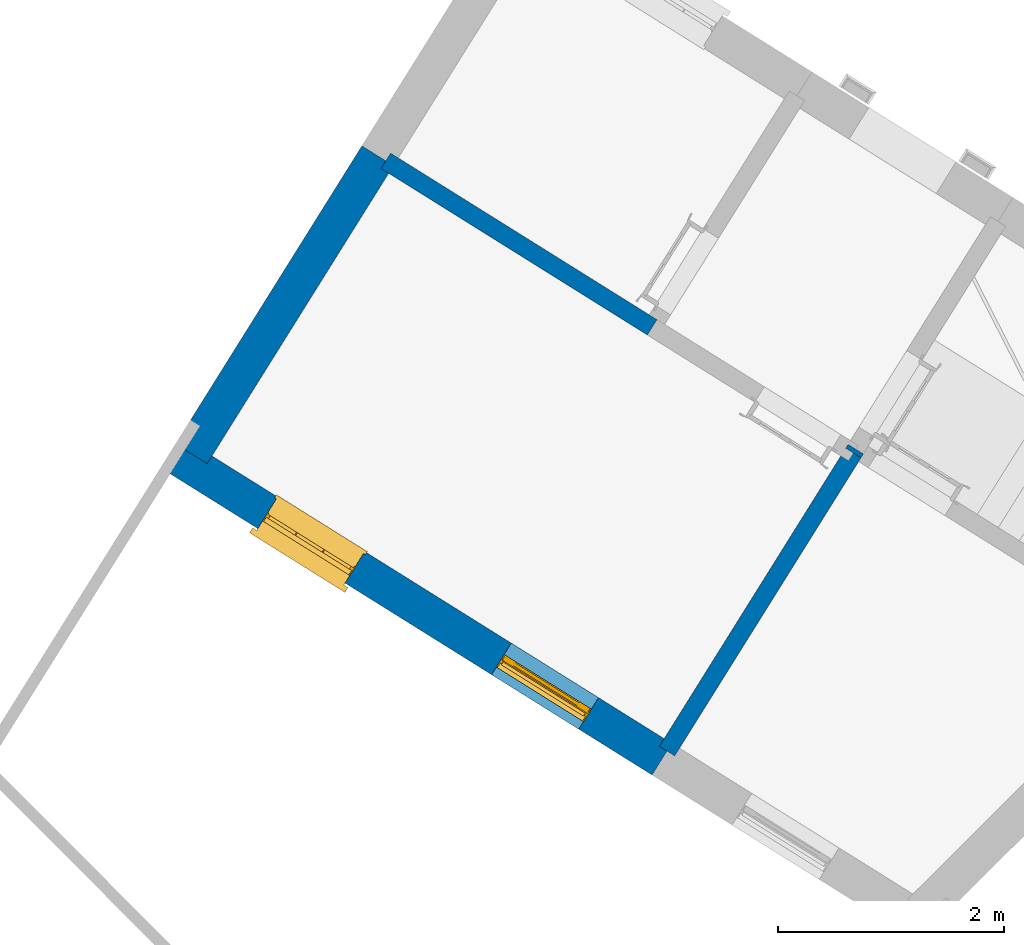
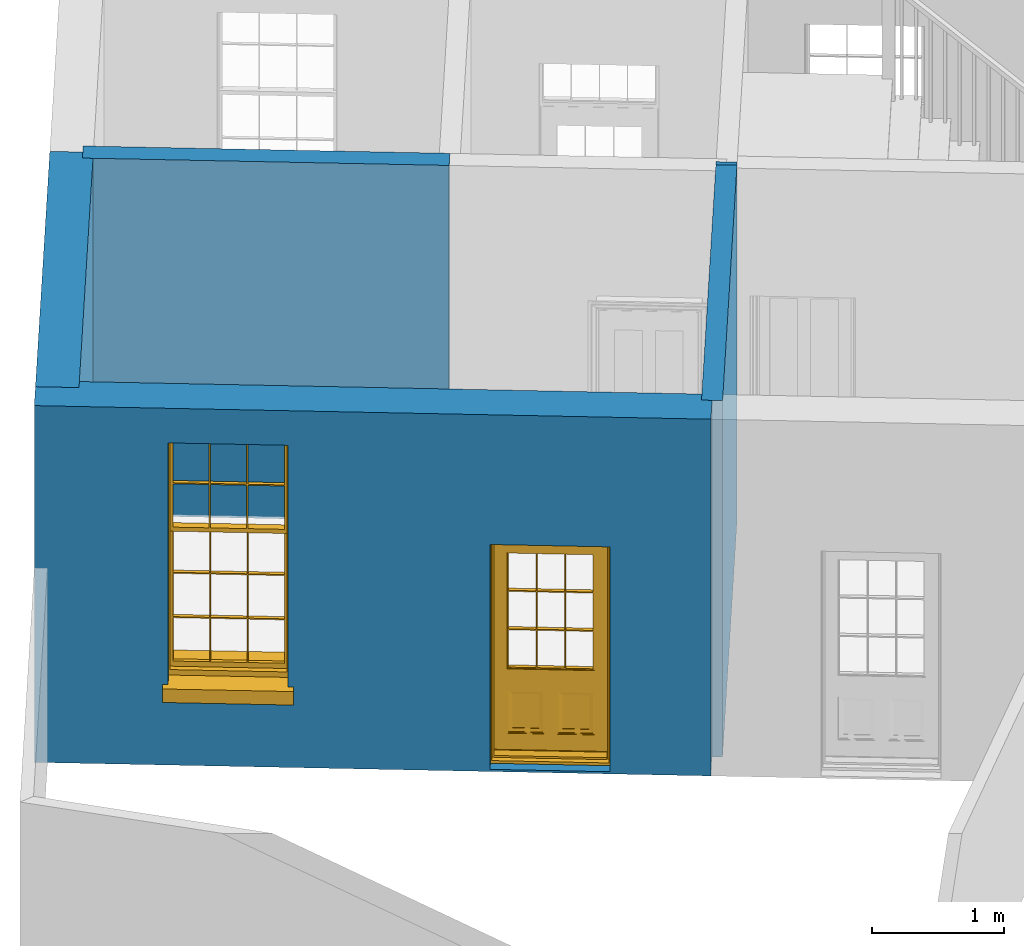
# One storey, part 2 of 5: 5 walls, 1 door, 1 window, 2 openings.
"""IFC4 building model written with IfcOpenShell, lengths in metres."""

from ifc_helpers import new_model, si_unit, frame, origin, origin_with_axes, place, context, subcontext, project, spatial, polyline, outline, extrude, faceted_brep, source, transform, mapped, material, layer, layer_set, layer_usage, type_object, type_shapes, element, fill, save


model = new_model("IFC4")

# Units and contexts
model_context = context("Model", 3, world=origin_with_axes())
body_context = subcontext(model_context, "Body", "Model", "MODEL_VIEW")
ifc_project = project(units=[si_unit("PLANEANGLEUNIT", "RADIAN"), si_unit("MASSUNIT", "GRAM", prefix="KILO"), si_unit("FORCEUNIT", "NEWTON", prefix="KILO"), si_unit("LENGTHUNIT", "METRE"), si_unit("AREAUNIT", "SQUARE_METRE"), si_unit("VOLUMEUNIT", "CUBIC_METRE")], contexts=[model_context, model_context])

# Sites, building, storey
site_1_placement = place(None, origin_with_axes())
site_1 = spatial("IfcSite", under=ifc_project, at=site_1_placement, Name="Tamar")
site_2_placement = place(site_1_placement, origin_with_axes())
site_2 = spatial("IfcSite", under=site_1, at=site_2_placement, Name="Site plot-4", CompositionType="ELEMENT")
building_placement = place(None, origin_with_axes())
building = spatial("IfcBuilding", under=site_2, at=building_placement, Name="Building plot-4", CompositionType="ELEMENT")
storey_placement = place(None, frame((0.0, 0.0, 24.5), z_axis=(0.0, 0.0, 1.0), x_axis=(1.0, 0.0, 0.0)))
storey = spatial("IfcBuildingStorey", under=building, at=storey_placement, Name="plot-4 0", CompositionType="ELEMENT", Elevation=24.5)

# Wall, openings, window, door
ifc_material_1 = material(Name="Masonry")
ifc_layer_1 = layer(ifc_material_1, 0.33, ventilated=False)
ifc_layer_set_1 = layer_set([ifc_layer_1], Name="exterior_0.08_0.25")
ifc_layer_usage_1 = layer_usage(ifc_layer_set_1, "AXIS2", "POSITIVE", -0.25)
wall_type_1 = type_object("IfcWallType", Name="exterior_0.08_0.25", PredefinedType="SOLIDWALL", material=ifc_layer_set_1)
wall_1_placement = place(storey_placement, frame((217.830342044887, 281.480394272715, 0.0), z_axis=(0.0, 0.0, 1.0), x_axis=(0.847981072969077, -0.530026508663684, 0.0)))
wall_1 = element("IfcWall", 1, at=wall_1_placement, inside=storey, type_object=wall_type_1, material=ifc_layer_usage_1, Name="exterior", context=body_context, shape_type="SweptSolid", body=[
    extrude(outline(polyline([(-0.25000000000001, 0.0799999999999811), (-0.250000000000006, -0.250000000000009), (4.88049319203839, -0.250000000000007), (4.88049319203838, 0.0799999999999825), (-0.25000000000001, 0.0799999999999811)])), origin_with_axes(), (0.0, 0.0, 1.0), 3.3),
])
opening_1_placement = place(wall_1_placement, frame((0.765123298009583, 0.0, 0.75)))
opening_1 = element("IfcOpeningElement", 2, at=opening_1_placement, cuts=wall_1, Name="My Opening", ObjectType="Opening", context=body_context, shape_type="SweptSolid", body=[
    extrude(outline(polyline([(0.0, -0.269999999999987), (0.910000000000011, -0.269999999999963), (0.910000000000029, 1.10000000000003), (1.67643676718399e-14, 1.10000000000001), (0.0, -0.269999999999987)])), origin_with_axes(), (0.0, 0.0, 1.0), 2.23),
])
opening_2_placement = place(wall_1_placement, frame((3.20536989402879, 0.0, 0.0199999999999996)))
opening_2 = element("IfcOpeningElement", 3, at=opening_2_placement, cuts=wall_1, Name="My Opening", ObjectType="Opening", context=body_context, shape_type="SweptSolid", body=[
    extrude(outline(polyline([(0.0, -0.270000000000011), (0.910000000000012, -0.269999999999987), (0.910000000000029, 1.10000000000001), (1.73194791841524e-14, 1.09999999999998), (0.0, -0.270000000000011)])), origin_with_axes(), (0.0, 0.0, 1.0), 2.08),
])
window_type = type_object("IfcWindowType", Name="sash_big_taller", PartitioningType="DOUBLE_PANEL_HORIZONTAL", PredefinedType="NOTDEFINED")
shared_shape_1 = source(origin(), body_context, "Body", "Brep", [
    faceted_brep([(0.033125, 0.145, 1.385209), (0.01, 0.145, 1.385209), (0.033125, 0.145, 1.786042), (0.876875, 0.145, 1.385209), (0.876875, 0.145, 1.786042), (0.9, 0.145, 1.385209), (0.876875, 0.145, 1.796042), (0.876875, 0.145, 2.196875), (0.9, 0.145, 2.22), (0.033125, 0.145, 2.196875), (0.033125, 0.145, 1.796042), (0.01, 0.145, 2.22), (0.876875, 0.115, 1.786042), (0.876875, 0.115, 1.385209), (0.9, 0.115, 1.347084), (0.033125, 0.115, 2.196875), (0.01, 0.115, 2.22), (0.033125, 0.115, 1.796042), (0.01, 0.115, 1.347084), (0.033125, 0.115, 1.385209), (0.033125, 0.115, 1.786042), (0.876875, 0.115, 2.196875), (0.876875, 0.115, 1.796042), (0.9, 0.115, 2.22), (0.033125, 0.145, 1.347084), (0.01, 0.145, 1.347084), (0.033125, 0.145, 0.94625), (0.876875, 0.145, 1.347084), (0.876875, 0.145, 0.94625), (0.9, 0.145, 1.347084), (0.876875, 0.145, 0.52625), (0.876875, 0.145, 0.125417), (0.9, 0.145, 0.077167), (0.033125, 0.145, 0.125417), (0.033125, 0.145, 0.52625), (0.01, 0.145, 0.077167), (-0.0425, 0.0, 0.01), (-0.0425, -0.05, 0.001667), (0.0, 0.0, 0.01), (0.9525, 0.0, 0.01), (0.91, 0.0, 0.01), (0.9525, -0.05, 0.001667), (-0.02, 0.33, 0.077167), (0.0, 0.33, 0.077167), (-0.02, 0.36, 0.077167), (0.0, 0.19, 0.077167), (0.01, 0.19, 0.077167), (0.91, 0.19, 0.077167), (0.91, 0.33, 0.077167), (0.9, 0.19, 0.077167), (0.93, 0.33, 0.077167), (0.93, 0.36, 0.077167), (0.01, 0.175, 1.385209), (0.9, 0.175, 1.385209), (0.876875, 0.175, 0.125417), (0.876875, 0.175, 0.52625), (0.9, 0.175, 0.077167), (0.876875, 0.175, 0.94625), (0.876875, 0.175, 1.347084), (0.033125, 0.175, 0.125417), (0.01, 0.175, 0.077167), (0.033125, 0.175, 0.52625), (0.033125, 0.175, 1.347084), (0.033125, 0.175, 0.94625), (-0.02, 0.33, 0.052167), (-0.02, 0.36, 0.052167), (0.93, 0.36, 0.052167), (0.93, 0.33, 0.052167), (0.91, 0.33, 0.052167), (0.0, 0.33, 0.052167), (0.91, 0.1, 0.026667), (0.0, 0.1, 0.026667), (-0.0425, -0.05, -0.123333), (0.9525, -0.05, -0.123333), (-0.0425, 0.0, -0.123333), (0.9525, 0.0, -0.123333), (0.01, 0.19, 2.22), (0.9, 0.19, 2.22), (0.0, 0.19, 2.23), (0.91, 0.19, 2.23), (0.01, 0.1, 0.077167), (0.9, 0.1, 0.077167), (0.592292, 0.145, 0.125417), (0.592292, 0.175, 0.125417), (0.317708, 0.175, 0.125417), (0.317708, 0.145, 0.125417), (0.592292, 0.145, 0.53625), (0.317708, 0.145, 0.53625), (0.317708, 0.145, 0.52625), (0.592292, 0.145, 0.52625), (0.592292, 0.175, 0.53625), (0.317708, 0.175, 0.53625), (0.592292, 0.115, 1.796042), (0.592292, 0.145, 1.796042), (0.317708, 0.145, 1.796042), (0.317708, 0.115, 1.796042), (0.317708, 0.115, 1.786042), (0.592292, 0.115, 1.786042), (0.317708, 0.145, 1.786042), (0.592292, 0.145, 1.786042), (0.602292, 0.115, 1.786042), (0.592292, 0.115, 1.385209), (0.602292, 0.115, 1.385209), (0.602292, 0.145, 1.385209), (0.592292, 0.145, 1.385209), (0.602292, 0.145, 1.786042), (0.876875, 0.145, 0.53625), (0.876875, 0.175, 0.53625), (0.602292, 0.175, 0.53625), (0.602292, 0.145, 0.53625), (0.317708, 0.175, 0.52625), (0.307708, 0.175, 0.125417), (0.307708, 0.175, 0.52625), (0.602292, 0.175, 0.52625), (0.602292, 0.175, 0.125417), (0.592292, 0.175, 0.52625), (0.307708, 0.175, 0.53625), (0.033125, 0.175, 0.53625), (0.317708, 0.175, 1.347084), (0.317708, 0.175, 0.94625), (0.307708, 0.175, 0.94625), (0.307708, 0.175, 1.347084), (0.602292, 0.175, 1.347084), (0.602292, 0.175, 0.94625), (0.592292, 0.175, 0.94625), (0.592292, 0.175, 1.347084), (0.307708, 0.145, 0.52625), (0.307708, 0.145, 0.125417), (0.307708, 0.145, 0.53625), (0.033125, 0.145, 0.53625), (0.307708, 0.145, 1.347084), (0.307708, 0.145, 0.94625), (0.592292, 0.145, 1.347084), (0.592292, 0.145, 0.94625), (0.317708, 0.145, 0.94625), (0.317708, 0.145, 1.347084), (0.602292, 0.145, 0.94625), (0.602292, 0.145, 1.347084), (0.602292, 0.145, 0.52625), (0.602292, 0.145, 0.125417), (0.307708, 0.115, 1.796042), (0.307708, 0.115, 1.786042), (0.307708, 0.115, 1.385209), (0.317708, 0.115, 1.385209), (0.317708, 0.115, 2.196875), (0.307708, 0.115, 2.196875), (0.602292, 0.115, 2.196875), (0.592292, 0.115, 2.196875), (0.602292, 0.115, 1.796042), (0.602292, 0.145, 1.796042), (0.307708, 0.145, 1.796042), (0.307708, 0.145, 2.196875), (0.317708, 0.145, 2.196875), (0.592292, 0.145, 2.196875), (0.602292, 0.145, 2.196875), (0.307708, 0.145, 1.786042), (0.317708, 0.145, 1.385209), (0.307708, 0.145, 1.385209), (0.876875, 0.175, 0.93625), (0.033125, 0.175, 0.93625), (0.033125, 0.145, 0.93625), (0.876875, 0.145, 0.93625), (0.91, 0.1, 2.23), (0.9, 0.1, 2.22), (0.01, 0.1, 2.22), (0.0, 0.1, 2.23), (0.91, 0.0, 0.0), (0.0, 0.0, 0.0), (0.91, 0.33, 0.0), (0.0, 0.33, 0.0), (0.317708, 0.145, 0.93625), (0.592292, 0.145, 0.93625), (0.317708, 0.175, 0.93625), (0.307708, 0.175, 0.93625), (0.602292, 0.175, 0.93625), (0.592292, 0.175, 0.93625), (0.307708, 0.145, 0.93625), (0.602292, 0.145, 0.93625)], [[[0, 1, 2]], [[3, 4, 5]], [[6, 7, 8]], [[9, 10, 11]], [[12, 13, 14]], [[15, 16, 17]], [[18, 19, 20]], [[21, 22, 23]], [[24, 25, 26]], [[27, 28, 29]], [[30, 31, 32]], [[33, 34, 35]], [[14, 27, 29]], [[25, 24, 18]], [[36, 37, 38]], [[39, 40, 41]], [[42, 43, 44]], [[45, 46, 43]], [[47, 48, 49]], [[50, 51, 48]], [[1, 0, 52]], [[5, 53, 3]], [[54, 55, 56]], [[57, 58, 53]], [[59, 60, 61]], [[62, 63, 52]], [[48, 43, 46, 49]], [[51, 44, 43, 48]], [[64, 42, 44, 65]], [[65, 44, 51, 66]], [[66, 51, 50, 67]], [[65, 66, 68, 69]], [[60, 56, 49, 46]], [[70, 71, 38, 40]], [[37, 41, 40, 38]], [[37, 72, 73, 41]], [[74, 75, 73, 72]], [[8, 11, 76, 77]], [[76, 78, 79, 77]], [[32, 35, 80, 81]], [[81, 80, 71, 70]], [[82, 83, 84, 85]], [[86, 87, 88, 89]], [[86, 90, 91, 87]], [[92, 93, 94, 95]], [[92, 95, 96, 97]], [[96, 98, 99, 97]], [[100, 97, 101, 102]], [[103, 104, 99, 105]], [[97, 99, 104, 101]], [[102, 103, 105, 100]], [[106, 107, 108, 109]], [[110, 84, 111, 112]], [[113, 114, 83, 115]], [[116, 112, 61, 117]], [[90, 115, 110, 91]], [[118, 119, 120, 121]], [[122, 123, 124, 125]], [[113, 108, 107, 55]], [[126, 112, 111, 127]], [[34, 61, 112, 126]], [[89, 115, 83, 82]], [[88, 110, 115, 89]], [[85, 84, 110, 88]], [[128, 116, 117, 129]], [[130, 121, 120, 131]], [[132, 125, 124, 133]], [[134, 119, 118, 135]], [[136, 123, 122, 137]], [[138, 113, 55, 30]], [[139, 114, 113, 138]], [[138, 30, 106, 109]], [[88, 126, 127, 85]], [[138, 89, 82, 139]], [[137, 132, 133, 136]], [[128, 129, 34, 126]], [[135, 130, 131, 134]], [[140, 17, 20, 141]], [[96, 141, 142, 143]], [[144, 145, 140, 95]], [[146, 147, 92, 148]], [[100, 12, 22, 148]], [[149, 6, 4, 105]], [[94, 150, 151, 152]], [[149, 93, 153, 154]], [[99, 98, 94, 93]], [[155, 2, 10, 150]], [[156, 157, 155, 98]], [[141, 155, 157, 142]], [[20, 2, 155, 141]], [[143, 156, 98, 96]], [[140, 150, 10, 17]], [[145, 151, 150, 140]], [[147, 153, 93, 92]], [[95, 94, 152, 144]], [[22, 6, 149, 148]], [[148, 149, 154, 146]], [[100, 105, 4, 12]], [[109, 86, 89, 138]], [[108, 113, 115, 90]], [[91, 110, 112, 116]], [[87, 128, 126, 88]], [[97, 100, 148, 92]], [[141, 96, 95, 140]], [[98, 155, 150, 94]], [[105, 99, 93, 149]], [[143, 101, 104, 156]], [[135, 118, 125, 132]], [[144, 152, 153, 147]], [[127, 111, 59, 33]], [[15, 9, 151, 145]], [[146, 154, 7, 21]], [[31, 54, 114, 139]], [[36, 74, 72, 37]], [[39, 41, 73, 75]], [[18, 14, 101, 143]], [[23, 16, 144, 147]], [[83, 56, 60, 84]], [[52, 53, 125, 118]], [[53, 52, 156, 104]], [[11, 8, 153, 152]], [[14, 18, 135, 132]], [[2, 1, 11, 10]], [[8, 5, 4, 6]], [[57, 53, 56, 158]], [[60, 52, 63, 159]], [[26, 25, 35, 160]], [[32, 29, 28, 161]], [[14, 23, 22, 12]], [[18, 20, 17, 16]], [[19, 0, 2, 20]], [[17, 10, 9, 15]], [[12, 4, 3, 13]], [[21, 7, 6, 22]], [[27, 58, 57, 28]], [[30, 55, 54, 31]], [[33, 59, 61, 34]], [[26, 63, 62, 24]], [[5, 8, 77, 53]], [[76, 11, 1, 52]], [[46, 45, 78, 76]], [[49, 77, 79, 47]], [[70, 162, 163, 81]], [[71, 80, 164, 165]], [[19, 142, 157, 0]], [[102, 13, 3, 103]], [[121, 130, 24, 62]], [[29, 32, 81, 14]], [[80, 35, 25, 18]], [[60, 46, 76, 52]], [[77, 49, 56, 53]], [[23, 14, 81, 163]], [[16, 164, 80, 18]], [[35, 85, 127]], [[127, 33, 35]], [[139, 82, 32]], [[32, 31, 139]], [[32, 82, 85, 35]], [[102, 101, 14]], [[14, 13, 102]], [[18, 143, 142]], [[142, 19, 18]], [[146, 21, 23]], [[23, 147, 146]], [[16, 15, 145]], [[145, 144, 16]], [[11, 152, 151]], [[151, 9, 11]], [[154, 153, 8]], [[8, 7, 154]], [[23, 163, 164, 16]], [[162, 165, 164, 163]], [[52, 118, 121]], [[121, 62, 52]], [[125, 53, 122]], [[58, 122, 53]], [[27, 137, 122, 58]], [[56, 83, 114]], [[114, 54, 56]], [[111, 84, 60]], [[60, 59, 111]], [[137, 27, 14]], [[14, 132, 137]], [[130, 135, 18]], [[18, 24, 130]], [[157, 156, 52]], [[52, 0, 157]], [[103, 3, 53]], [[53, 104, 103]], [[79, 78, 165, 162]], [[78, 45, 71, 165]], [[162, 70, 47, 79]], [[166, 75, 74, 167]], [[68, 66, 67]], [[48, 68, 67, 50]], [[69, 64, 65]], [[42, 64, 69, 43]], [[69, 68, 168, 169]], [[70, 68, 48, 47]], [[166, 168, 68, 70]], [[43, 69, 71, 45]], [[69, 169, 167, 71]], [[168, 166, 167, 169]], [[38, 167, 74, 36]], [[71, 167, 38]], [[39, 75, 166, 40]], [[40, 166, 70]], [[133, 134, 170, 171]], [[133, 124, 119, 134]], [[28, 57, 123, 136]], [[172, 91, 116, 173]], [[174, 108, 90, 175]], [[120, 173, 159, 63]], [[124, 175, 172, 119]], [[174, 123, 57, 158]], [[176, 173, 116, 128]], [[160, 159, 173, 176]], [[171, 175, 90, 86]], [[170, 172, 175, 171]], [[87, 91, 172, 170]], [[131, 120, 63, 26]], [[177, 174, 158, 161]], [[109, 108, 174, 177]], [[177, 161, 28, 136]], [[170, 176, 128, 87]], [[177, 171, 86, 109]], [[131, 26, 160, 176]], [[136, 133, 171, 177]], [[123, 174, 175, 124]], [[119, 172, 173, 120]], [[134, 131, 176, 170]], [[129, 117, 159, 160]], [[161, 158, 107, 106]], [[35, 34, 129]], [[35, 129, 160]], [[32, 106, 30]], [[32, 161, 106]], [[56, 55, 107]], [[56, 107, 158]], [[60, 117, 61]], [[60, 159, 117]]]),
])
type_shapes(window_type, [shared_shape_1])
window_placement = place(storey_placement, frame((218.336044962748, 280.845903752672, 0.75), z_axis=(0.0, 0.0, 1.0), x_axis=(0.771662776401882, -0.482324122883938, 0.0)))
window = element("IfcWindow", 4, at=window_placement, inside=storey, type_object=window_type, Name="bedroom outside window", OverallHeight=2.23, OverallWidth=0.91, context=body_context, shape_type="MappedRepresentation", body=[
    mapped(shared_shape_1, transform((0.0, 0.0, 0.0), scale=1.0)),
])
fill(opening_1, window)
door_type = type_object("IfcDoorType", Name="door_panelled", OperationType="SINGLE_SWING_LEFT", PredefinedType="NOTDEFINED")
shared_shape_2 = source(origin(), body_context, "Body", "Brep", [
    faceted_brep([(0.545, 0.195, 0.265), (0.745, 0.195, 0.265), (0.745, 0.2, 0.265), (0.545, 0.2, 0.265), (0.745, 0.2, 0.58), (0.545, 0.2, 0.58), (0.545, 0.195, 0.58), (0.515, 0.19, 0.235), (0.775, 0.19, 0.235), (0.745, 0.195, 0.58), (0.515, 0.19, 0.61), (0.515, 0.185, 0.235), (0.775, 0.185, 0.235), (0.775, 0.19, 0.61), (0.515, 0.185, 0.61), (0.785, 0.185, 0.225), (0.505, 0.185, 0.225), (0.775, 0.185, 0.61), (0.505, 0.185, 0.62), (0.785, 0.185, 0.62), (0.505, 0.18, 0.225), (0.785, 0.18, 0.225), (0.505, 0.18, 0.62), (0.785, 0.18, 0.62), (0.883, 0.18, 0.075), (0.898, 0.18, 0.075), (0.405, 0.18, 0.62), (0.405, 0.18, 0.225), (0.027, 0.18, 0.075), (0.785, 0.18, 0.82), (0.125, 0.18, 0.82), (0.405, 0.185, 0.62), (0.405, 0.185, 0.225), (0.898, 0.18, 2.068), (0.027, 0.17, 0.075), (0.883, 0.17, 0.075), (0.125, 0.18, 0.225), (0.012, 0.18, 0.075), (0.785, 0.19, 0.82), (0.125, 0.19, 0.82), (0.125, 0.18, 0.62), (0.125, 0.185, 0.62), (0.395, 0.185, 0.61), (0.395, 0.185, 0.235), (0.125, 0.185, 0.225), (0.785, 0.18, 1.895), (0.027, 0.14, 0.045), (0.883, 0.14, 0.045), (0.558333, 0.19, 0.83), (0.351667, 0.19, 0.83), (0.125, 0.18, 1.895), (0.125, 0.19, 1.895), (0.785, 0.19, 1.895), (0.012, 0.18, 2.068), (0.135, 0.185, 0.61), (0.395, 0.19, 0.61), (0.395, 0.19, 0.235), (0.135, 0.185, 0.235), (0.027, 0.14, 0.027), (0.883, 0.14, 0.027), (0.568333, 0.19, 0.83), (0.558333, 0.22, 0.83), (0.351667, 0.22, 0.83), (0.341667, 0.19, 0.83), (0.135, 0.19, 1.185), (0.135, 0.19, 1.53), (0.775, 0.19, 1.53), (0.775, 0.19, 1.185), (0.135, 0.19, 0.61), (0.365, 0.195, 0.58), (0.365, 0.195, 0.265), (0.135, 0.19, 0.235), (0.568333, 0.19, 1.175), (0.558333, 0.19, 1.175), (0.775, 0.19, 0.83), (0.558333, 0.22, 1.175), (0.785, 0.22, 0.82), (0.125, 0.22, 0.82), (0.351667, 0.22, 1.175), (0.351667, 0.19, 1.175), (0.341667, 0.19, 1.175), (0.135, 0.19, 0.83), (0.135, 0.19, 1.175), (0.135, 0.22, 1.185), (0.135, 0.22, 1.53), (0.135, 0.19, 1.54), (0.351667, 0.19, 1.885), (0.558333, 0.19, 1.885), (0.775, 0.22, 1.53), (0.775, 0.22, 1.185), (0.775, 0.19, 1.175), (0.775, 0.19, 1.54), (0.165, 0.195, 0.58), (0.365, 0.2, 0.58), (0.365, 0.2, 0.265), (0.165, 0.195, 0.265), (0.568333, 0.22, 0.83), (0.568333, 0.22, 1.175), (0.568333, 0.19, 1.185), (0.558333, 0.19, 1.185), (0.775, 0.22, 0.83), (0.785, 0.23, 0.82), (0.125, 0.23, 0.82), (0.341667, 0.22, 0.83), (0.341667, 0.22, 1.175), (0.351667, 0.19, 1.185), (0.341667, 0.19, 1.185), (0.135, 0.22, 0.83), (0.341667, 0.22, 1.185), (0.125, 0.22, 1.895), (0.341667, 0.22, 1.53), (0.341667, 0.19, 1.53), (0.135, 0.19, 1.885), (0.341667, 0.19, 1.54), (0.341667, 0.19, 1.885), (0.558333, 0.22, 1.885), (0.351667, 0.22, 1.885), (0.568333, 0.19, 1.885), (0.785, 0.22, 1.895), (0.568333, 0.22, 1.185), (0.568333, 0.19, 1.53), (0.568333, 0.22, 1.53), (0.568333, 0.19, 1.54), (0.775, 0.19, 1.885), (0.165, 0.2, 0.58), (0.165, 0.2, 0.265), (0.775, 0.22, 1.175), (0.558333, 0.19, 1.53), (0.351667, 0.22, 1.185), (0.558333, 0.22, 1.185), (0.505, 0.23, 0.62), (0.405, 0.23, 0.62), (0.125, 0.23, 1.895), (0.785, 0.23, 1.895), (0.351667, 0.19, 1.53), (0.135, 0.22, 1.175), (0.135, 0.22, 1.54), (0.341667, 0.22, 1.54), (0.135, 0.22, 1.885), (0.351667, 0.19, 1.54), (0.558333, 0.22, 1.54), (0.558333, 0.19, 1.54), (0.351667, 0.22, 1.54), (0.775, 0.22, 1.54), (0.568333, 0.22, 1.54), (0.775, 0.22, 1.885), (0.558333, 0.22, 1.53), (0.405, 0.23, 0.225), (0.505, 0.23, 0.225), (0.125, 0.23, 0.62), (0.785, 0.23, 0.62), (0.012, 0.23, 2.068), (0.898, 0.23, 2.068), (0.351667, 0.22, 1.53), (0.341667, 0.22, 1.885), (0.568333, 0.22, 1.885), (0.405, 0.225, 0.225), (0.405, 0.225, 0.62), (0.505, 0.225, 0.62), (0.505, 0.225, 0.225), (0.898, 0.23, 0.027), (0.012, 0.23, 0.027), (0.125, 0.225, 0.62), (0.785, 0.225, 0.62), (0.395, 0.225, 0.235), (0.395, 0.225, 0.61), (0.125, 0.23, 0.225), (0.125, 0.225, 0.225), (0.515, 0.225, 0.61), (0.515, 0.225, 0.235), (0.785, 0.23, 0.225), (0.785, 0.225, 0.225), (0.135, 0.225, 0.61), (0.775, 0.225, 0.61), (0.135, 0.225, 0.235), (0.395, 0.22, 0.235), (0.395, 0.22, 0.61), (0.515, 0.22, 0.61), (0.515, 0.22, 0.235), (0.775, 0.225, 0.235), (0.135, 0.22, 0.61), (0.775, 0.22, 0.61), (0.135, 0.22, 0.235), (0.365, 0.215, 0.265), (0.365, 0.215, 0.58), (0.545, 0.215, 0.58), (0.545, 0.215, 0.265), (0.775, 0.22, 0.235), (0.165, 0.215, 0.58), (0.745, 0.215, 0.58), (0.165, 0.215, 0.265), (0.365, 0.21, 0.58), (0.365, 0.21, 0.265), (0.545, 0.21, 0.58), (0.545, 0.21, 0.265), (0.745, 0.215, 0.265), (0.165, 0.21, 0.58), (0.745, 0.21, 0.58), (0.165, 0.21, 0.265), (0.745, 0.21, 0.265), (0.885, 0.178, 0.025), (0.025, 0.178, 0.025), (0.025, 0.15, 0.025), (0.885, 0.15, 0.025), (0.9, 0.23, 0.025), (0.01, 0.23, 0.025), (0.9, 0.178, 0.025), (0.91, 0.23, 0.0), (0.0, 0.23, 0.0), (0.01, 0.178, 0.025), (0.9, 0.178, 2.07), (0.9, 0.23, 2.07), (0.885, 0.178, 2.055), (0.91, 0.23, 2.08), (0.01, 0.23, 2.07), (0.0, 0.23, 2.08), (0.01, 0.178, 2.07), (0.025, 0.178, 2.055), (0.0, 0.1, 2.08), (0.91, 0.1, 2.08), (0.01, 0.1, 2.07), (0.9, 0.1, 2.07), (0.01, 0.15, 2.07), (0.9, 0.15, 2.07), (0.0, 0.1, 0.0), (0.91, 0.1, 0.0), (0.01, 0.1, 0.025), (0.9, 0.1, 0.025), (0.01, 0.15, 0.025), (0.025, 0.15, 2.055), (0.9, 0.15, 0.025), (0.885, 0.15, 2.055), (0.898, 0.18, 0.027), (0.012, 0.18, 0.027), (0.883, 0.18, 0.027), (0.027, 0.18, 0.027)], [[[0, 1, 2, 3]], [[2, 4, 5, 3]], [[0, 3, 5, 6]], [[1, 0, 7, 8]], [[9, 4, 2, 1]], [[9, 6, 5, 4]], [[0, 6, 10, 7]], [[8, 7, 11, 12]], [[8, 13, 9, 1]], [[13, 10, 6, 9]], [[7, 10, 14, 11]], [[15, 12, 11, 16]], [[12, 17, 13, 8]], [[17, 14, 10, 13]], [[18, 16, 11, 14]], [[15, 19, 17, 12]], [[15, 16, 20, 21]], [[14, 17, 19, 18]], [[16, 18, 22, 20]], [[21, 23, 19, 15]], [[24, 25, 21, 20]], [[23, 22, 18, 19]], [[20, 22, 26, 27]], [[23, 21, 25]], [[28, 24, 20, 27]], [[22, 23, 29]], [[29, 30, 26, 22]], [[27, 26, 31, 32]], [[23, 25, 33, 29]], [[34, 35, 24, 28]], [[28, 27, 36, 37]], [[38, 39, 30, 29]], [[26, 30, 40]], [[26, 40, 41, 31]], [[42, 43, 32, 31]], [[32, 44, 36, 27]], [[33, 45, 29]], [[46, 47, 35, 34]], [[36, 40, 37]], [[39, 38, 48, 49]], [[50, 30, 39, 51]], [[29, 45, 52, 38]], [[53, 37, 40, 30]], [[44, 41, 40, 36]], [[31, 41, 54, 42]], [[43, 42, 55, 56]], [[57, 44, 32, 43]], [[50, 45, 33, 53]], [[47, 46, 58, 59]], [[60, 48, 38]], [[49, 48, 61, 62]], [[49, 63, 39]], [[50, 53, 30]], [[51, 39, 64, 65]], [[45, 50, 51, 52]], [[66, 67, 38, 52]], [[57, 54, 41, 44]], [[42, 54, 68, 55]], [[56, 55, 69, 70]], [[56, 71, 57, 43]], [[60, 72, 73, 48]], [[60, 38, 74]], [[48, 73, 75, 61]], [[76, 77, 62, 61]], [[62, 78, 79, 49]], [[49, 79, 80, 63]], [[63, 81, 39]], [[82, 64, 39]], [[65, 64, 83, 84]], [[85, 51, 65]], [[52, 51, 86, 87]], [[88, 89, 67, 66]], [[90, 38, 67]], [[91, 66, 52]], [[71, 68, 54, 57]], [[55, 68, 92, 69]], [[69, 93, 94, 70]], [[70, 95, 71, 56]], [[96, 97, 72, 60]], [[73, 72, 98, 99]], [[74, 38, 90]], [[100, 96, 60, 74]], [[75, 73, 79, 78]], [[61, 75, 97, 96]], [[101, 102, 77, 76]], [[77, 103, 62]], [[96, 76, 61]], [[103, 104, 78, 62]], [[80, 79, 105, 106]], [[63, 80, 104, 103]], [[81, 63, 103, 107]], [[81, 82, 39]], [[106, 64, 82, 80]], [[106, 108, 83, 64]], [[84, 83, 77, 109]], [[110, 111, 65, 84]], [[112, 51, 85]], [[113, 85, 65, 111]], [[114, 86, 51]], [[115, 87, 86, 116]], [[117, 52, 87]], [[118, 76, 89, 88]], [[119, 98, 67, 89]], [[120, 121, 88, 66]], [[67, 98, 72, 90]], [[91, 122, 120, 66]], [[91, 52, 123]], [[95, 92, 68, 71]], [[69, 92, 124, 93]], [[94, 93, 124, 125]], [[94, 125, 95, 70]], [[72, 97, 126, 90]], [[127, 99, 98, 120]], [[99, 105, 79, 73]], [[74, 90, 126, 100]], [[96, 100, 76]], [[128, 129, 75, 78]], [[97, 75, 129, 119]], [[130, 131, 102, 101]], [[109, 77, 102, 132]], [[133, 101, 76, 118]], [[77, 107, 103]], [[78, 104, 108, 128]], [[111, 106, 105, 134]], [[104, 80, 82, 135]], [[107, 135, 82, 81]], [[110, 108, 106, 111]], [[104, 135, 83, 108]], [[83, 135, 77]], [[136, 84, 109]], [[110, 84, 136, 137]], [[114, 51, 112]], [[85, 136, 138, 112]], [[113, 137, 136, 85]], [[111, 134, 139, 113]], [[86, 114, 113, 139]], [[140, 141, 87, 115]], [[139, 142, 116, 86]], [[109, 118, 115, 116]], [[117, 123, 52]], [[117, 87, 141, 122]], [[126, 89, 76]], [[143, 118, 88]], [[120, 98, 119, 121]], [[119, 89, 126, 97]], [[144, 143, 88, 121]], [[144, 122, 91, 143]], [[127, 120, 122, 141]], [[143, 91, 123, 145]], [[124, 92, 95, 125]], [[146, 129, 99, 127]], [[99, 129, 128, 105]], [[100, 126, 76]], [[121, 119, 129, 146]], [[147, 131, 130, 148]], [[131, 149, 102]], [[130, 101, 150]], [[102, 151, 132]], [[118, 109, 132, 133]], [[101, 133, 152]], [[107, 77, 135]], [[153, 128, 108, 110]], [[134, 105, 128, 153]], [[109, 138, 136]], [[153, 110, 137, 142]], [[154, 114, 112, 138]], [[137, 113, 114, 154]], [[141, 139, 134, 127]], [[141, 140, 142, 139]], [[144, 140, 115, 155]], [[142, 137, 154, 116]], [[155, 115, 118]], [[116, 154, 109]], [[117, 155, 145, 123]], [[122, 144, 155, 117]], [[143, 145, 118]], [[121, 146, 140, 144]], [[146, 127, 134, 153]], [[156, 157, 131, 147]], [[148, 130, 158, 159]], [[148, 160, 161, 147]], [[157, 162, 149, 131]], [[161, 151, 102, 149]], [[101, 152, 160, 150]], [[163, 158, 130, 150]], [[151, 152, 133, 132]], [[154, 138, 109]], [[142, 140, 146, 153]], [[145, 155, 118]], [[157, 156, 164, 165]], [[147, 166, 167, 156]], [[168, 169, 159, 158]], [[170, 148, 159, 171]], [[148, 170, 160]], [[166, 147, 161]], [[172, 162, 157, 165]], [[166, 149, 162, 167]], [[166, 161, 149]], [[150, 160, 170]], [[163, 173, 168, 158]], [[171, 163, 150, 170]], [[174, 164, 156, 167]], [[175, 176, 165, 164]], [[169, 168, 177, 178]], [[171, 159, 169, 179]], [[167, 162, 172, 174]], [[176, 180, 172, 165]], [[179, 173, 163, 171]], [[181, 177, 168, 173]], [[164, 174, 182, 175]], [[183, 184, 176, 175]], [[178, 177, 185, 186]], [[179, 169, 178, 187]], [[174, 172, 180, 182]], [[184, 188, 180, 176]], [[187, 181, 173, 179]], [[189, 185, 177, 181]], [[175, 182, 190, 183]], [[191, 184, 183, 192]], [[185, 193, 194, 186]], [[187, 178, 186, 195]], [[182, 180, 188, 190]], [[191, 196, 188, 184]], [[195, 189, 181, 187]], [[197, 193, 185, 189]], [[183, 190, 198, 192]], [[198, 196, 191, 192]], [[194, 193, 197, 199]], [[195, 186, 194, 199]], [[188, 196, 198, 190]], [[197, 189, 195, 199]], [[200, 201, 202, 203]], [[201, 200, 204, 205]], [[206, 204, 200]], [[204, 207, 208, 205]], [[209, 201, 205]], [[210, 211, 204, 206]], [[206, 200, 212, 210]], [[211, 213, 207, 204]], [[214, 205, 208, 215]], [[216, 217, 201, 209]], [[205, 214, 216, 209]], [[216, 214, 211, 210]], [[210, 212, 217, 216]], [[214, 215, 213, 211]], [[218, 219, 213, 215]], [[219, 218, 220, 221]], [[221, 220, 222, 223]], [[215, 208, 224, 218]], [[225, 224, 208, 207]], [[224, 226, 220, 218]], [[224, 225, 227, 226]], [[219, 225, 207, 213]], [[228, 222, 220, 226]], [[219, 221, 227, 225]], [[226, 227, 203, 202]], [[202, 229, 222, 228]], [[228, 226, 202]], [[227, 221, 223, 230]], [[230, 203, 227]], [[217, 229, 202, 201]], [[231, 223, 222, 229]], [[230, 223, 231, 203]], [[231, 229, 217, 212]], [[212, 200, 203, 231]], [[33, 152, 151, 53]], [[25, 160, 152, 33]], [[161, 37, 53, 151]], [[232, 160, 25]], [[161, 233, 37]], [[160, 232, 234]], [[24, 234, 232, 25]], [[233, 161, 235]], [[37, 233, 235, 28]], [[161, 160, 234, 235]], [[35, 47, 234, 24]], [[28, 235, 46, 34]], [[58, 235, 234, 59]], [[59, 234, 47]], [[58, 46, 235]]]),
])
type_shapes(door_type, [shared_shape_2])
door_placement = place(storey_placement, frame((220.405327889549, 279.552508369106, 0.0199999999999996), z_axis=(0.0, 0.0, 1.0), x_axis=(0.771662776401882, -0.482324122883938, 0.0)))
door = element("IfcDoor", 5, at=door_placement, inside=storey, type_object=door_type, Name="bedroom outside door", OverallHeight=2.08, OverallWidth=0.91, context=body_context, shape_type="MappedRepresentation", body=[
    mapped(shared_shape_2, transform((0.0, 0.0, 0.0), scale=1.0)),
])
fill(opening_2, door)

# Walls
ifc_material_2 = material(Name="Masonry")
ifc_layer_2 = layer(ifc_material_2, 0.33, ventilated=False)
ifc_layer_set_2 = layer_set([ifc_layer_2], Name="party_0.08_0.25")
ifc_layer_usage_2 = layer_usage(ifc_layer_set_2, "AXIS2", "POSITIVE", -0.25)
wall_type_2 = type_object("IfcWallType", Name="party_0.08_0.25", PredefinedType="SOLIDWALL", material=ifc_layer_set_2)
wall_2_placement = place(storey_placement, frame((219.479418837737, 284.118726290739, 0.0), z_axis=(0.0, 0.0, 1.0), x_axis=(-0.53002650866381, -0.847981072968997, 0.0)))
element("IfcWall", 6, at=wall_2_placement, inside=storey, type_object=wall_type_2, material=ifc_layer_usage_2, Name="party", context=body_context, shape_type="SweptSolid", body=[
    extrude(outline(polyline([(-5.48587482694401e-15, 0.0800000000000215), (3.85400470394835e-14, -0.250000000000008), (3.11131003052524, -0.250000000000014), (3.11131003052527, 0.0799999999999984), (-5.48587482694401e-15, 0.0800000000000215)])), origin_with_axes(), (0.0, 0.0, 1.0), 3.3),
])
ifc_material_3 = material(Name="Masonry")
ifc_layer_3 = layer(ifc_material_3, 0.16, ventilated=False)
ifc_layer_set_3 = layer_set([ifc_layer_3], Name="interior_0.08_0.08")
ifc_layer_usage_3 = layer_usage(ifc_layer_set_3, "AXIS2", "POSITIVE", -0.08)
wall_type_3 = type_object("IfcWallType", Name="interior_0.08_0.08", PredefinedType="SOLIDWALL", material=ifc_layer_set_3)
wall_3_placement = place(storey_placement, frame((223.639587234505, 281.566497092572, 0.0), z_axis=(0.0, 0.0, 1.0), x_axis=(-0.530026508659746, -0.847981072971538, 0.0)))
element("IfcWall", 7, at=wall_3_placement, inside=storey, type_object=wall_type_3, material=ifc_layer_usage_3, Name="interior", context=body_context, shape_type="SweptSolid", body=[
    extrude(outline(polyline([(-1.6489440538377e-15, 0.0799999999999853), (1.67467401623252e-15, -0.0799999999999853), (0.0407574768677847, -0.0799999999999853), (0.0407574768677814, 0.0799999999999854), (-1.6489440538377e-15, 0.0799999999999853)])), origin_with_axes(), (0.0, 0.0, 1.0), 3.3),
])
wall_4_placement = place(storey_placement, frame((223.617984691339, 281.531935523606, 0.0), z_axis=(0.0, 0.0, 1.0), x_axis=(-0.53002650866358, -0.847981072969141, 0.0)))
element("IfcWall", 8, at=wall_4_placement, inside=storey, type_object=wall_type_3, material=ifc_layer_usage_3, Name="interior", context=body_context, shape_type="SweptSolid", body=[
    extrude(outline(polyline([(1.61856786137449e-14, 0.0800000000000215), (-1.61954757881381e-14, -0.0800000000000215), (3.11131003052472, -0.0800000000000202), (3.11131003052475, 0.0800000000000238), (1.61856786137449e-14, 0.0800000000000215)])), origin_with_axes(), (0.0, 0.0, 1.0), 3.3),
])
wall_5_placement = place(storey_placement, frame((221.837317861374, 282.644932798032, 0.0), z_axis=(0.0, 0.0, 1.0), x_axis=(-0.847981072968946, 0.530026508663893, 0.0)))
element("IfcWall", 9, at=wall_5_placement, inside=storey, type_object=wall_type_3, material=ifc_layer_usage_3, Name="interior", context=body_context, shape_type="SweptSolid", body=[
    extrude(outline(polyline([(1.78125542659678e-15, 0.0799999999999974), (-1.7714582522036e-15, -0.0799999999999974), (2.78060336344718, -0.0799999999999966), (2.78060336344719, 0.079999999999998), (1.78125542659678e-15, 0.0799999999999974)])), origin_with_axes(), (0.0, 0.0, 1.0), 3.3),
])

save(model, "model.ifc")
